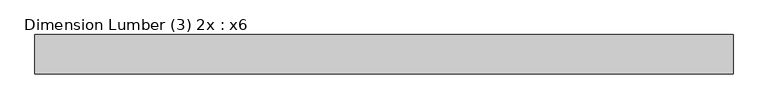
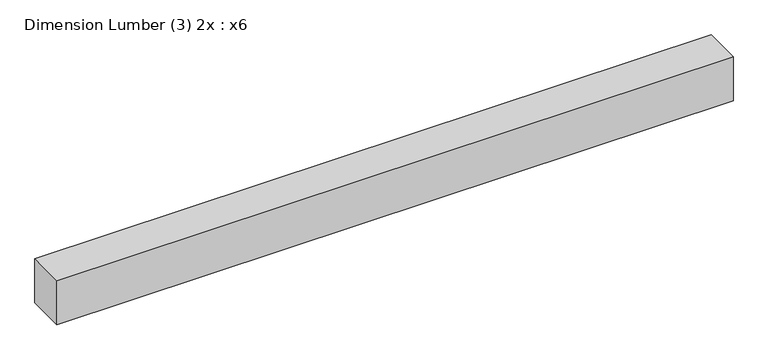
"""IFC4 building model written with IfcOpenShell, lengths in millimetres: beam geometry, Dimension Lumber (3) 2x : x6."""

from ifc_helpers import new_model, si_unit, frame, origin, place, context, project, spatial, polyline, outline, extrude, source, transform, mapped, element, save


def dimension_lumber_3_2x_x6_ef7e8fa2(model_context):
    return source(origin(), model_context, "Body", "SweptSolid", [
        extrude(outline(polyline([(1054.1, 57.15), (1054.1, -57.15), (-977.9, -57.15), (-977.9, 57.15), (1054.1, 57.15)])), frame((0.0, 0.0, -69.85), z_axis=(0.0, 0.0, 1.0), x_axis=(1.0, 0.0, 0.0)), (0.0, 0.0, 1.0), 139.7),
    ])


if __name__ == "__main__":
    model = new_model("IFC4")
    model_context = context("Model", 3, world=origin())
    ifc_project = project(units=[si_unit("LENGTHUNIT", "METRE", prefix="MILLI")], contexts=[model_context])
    site = spatial("IfcSite", under=ifc_project)
    building = spatial("IfcBuilding", under=site)
    placement = place(None, origin())
    dimension_lumber_3_2x_x6_shape = dimension_lumber_3_2x_x6_ef7e8fa2(model_context)
    element("IfcBeam", 1, ObjectType="Dimension Lumber (3) 2x : x6", at=placement, inside=building, context=model_context, shape_type="MappedRepresentation", body=[
        mapped(dimension_lumber_3_2x_x6_shape, transform((0.0, 0.0, 0.0), x_axis=(1.0, 0.0, 0.0), y_axis=(0.0, 1.0, 0.0), z_axis=(0.0, 0.0, 1.0))),
    ])
    save(model, "model.ifc")
